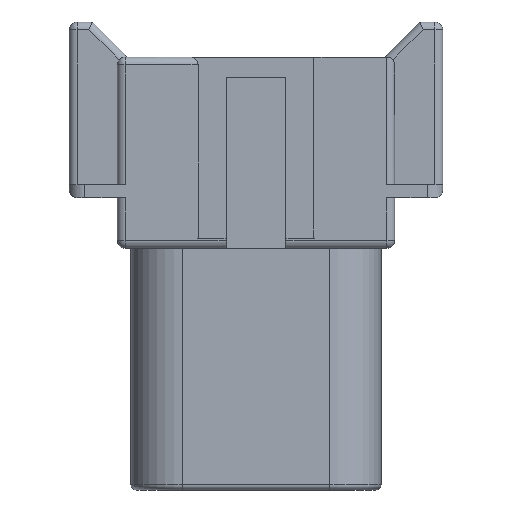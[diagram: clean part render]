
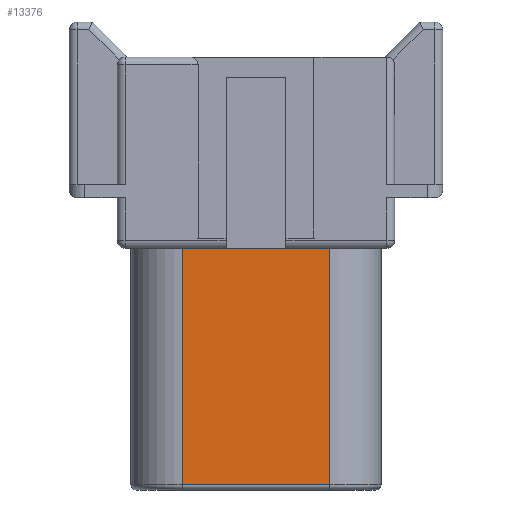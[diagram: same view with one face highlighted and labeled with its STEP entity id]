
A CAD part, front view. The second image highlights one B-rep face of the part: STEP entity #13376.
In plain terms, the highlighted planar face has unit normal (0, -1, 0).
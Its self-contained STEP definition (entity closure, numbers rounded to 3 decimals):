
#1664=DIRECTION('',(-1.,0.,0.));
#1665=VECTOR('',#1664,14.351);
#1666=CARTESIAN_POINT('',(7.176,-9.093,-22.098));
#1667=LINE('',#1666,#1665);
#2882=DIRECTION('',(0.,0.,-1.));
#2883=VECTOR('',#2882,23.063);
#2884=CARTESIAN_POINT('',(-7.176,-9.093,-22.098));
#2885=LINE('',#2884,#2883);
#2889=DIRECTION('',(-1.,0.,0.));
#2890=VECTOR('',#2889,14.351);
#2891=CARTESIAN_POINT('',(7.176,-9.093,-45.161));
#2892=LINE('',#2891,#2890);
#2896=DIRECTION('',(0.,0.,-1.));
#2897=VECTOR('',#2896,23.063);
#2898=CARTESIAN_POINT('',(7.176,-9.093,-22.098));
#2899=LINE('',#2898,#2897);
#10405=CARTESIAN_POINT('',(7.176,-9.093,-22.098));
#10406=VERTEX_POINT('',#10405);
#10407=CARTESIAN_POINT('',(-7.176,-9.093,-22.098));
#10408=VERTEX_POINT('',#10407);
#11459=CARTESIAN_POINT('',(7.176,-9.093,-45.161));
#11460=VERTEX_POINT('',#11459);
#11463=CARTESIAN_POINT('',(-7.176,-9.093,-45.161));
#11464=VERTEX_POINT('',#11463);
#13364=CARTESIAN_POINT('',(7.176,-9.093,-22.098));
#13365=DIRECTION('',(0.,-1.,0.));
#13366=DIRECTION('',(-1.,0.,0.));
#13367=AXIS2_PLACEMENT_3D('',#13364,#13365,#13366);
#13368=PLANE('',#13367);
#13369=ORIENTED_EDGE('',*,*,#13332,.T.);
#13370=ORIENTED_EDGE('',*,*,#13359,.F.);
#13371=ORIENTED_EDGE('',*,*,#12887,.F.);
#13373=ORIENTED_EDGE('',*,*,#13372,.T.);
#13374=EDGE_LOOP('',(#13369,#13370,#13371,#13373));
#13375=FACE_OUTER_BOUND('',#13374,.F.);
#13376=ADVANCED_FACE('',(#13375),#13368,.T.);
#12887=EDGE_CURVE('',#10406,#10408,#1667,.T.);
#13332=EDGE_CURVE('',#11460,#11464,#2892,.T.);
#13359=EDGE_CURVE('',#10408,#11464,#2885,.T.);
#13372=EDGE_CURVE('',#10406,#11460,#2899,.T.);
